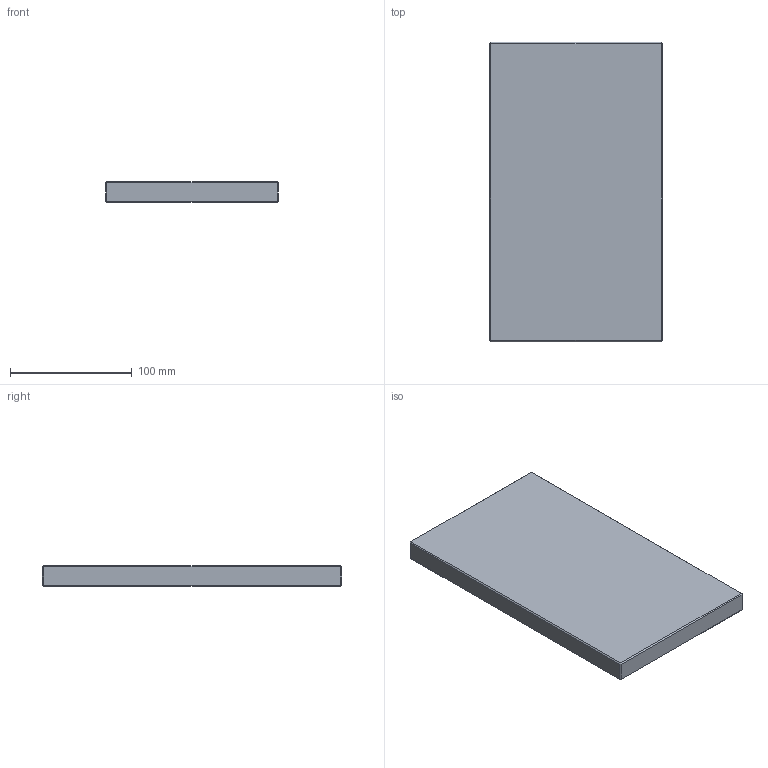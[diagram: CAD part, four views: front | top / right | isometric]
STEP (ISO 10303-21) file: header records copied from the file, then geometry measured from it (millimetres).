
FILE_DESCRIPTION (( 'STEP AP214' ), '1' );
FILE_NAME ('CPE-P-216x246x17.STEP', '2021-03-25T11:36:26', ( '' ), ( '' ), 'SwSTEP 2.0', 'SolidWorks 2018', '' );
FILE_SCHEMA (( 'AUTOMOTIVE_DESIGN' ));
Length unit declared in the file: millimetre
Products named in the file (1): CPE-P-216x246x17
Bounding box: 142 x 246 x 17 mm (x, y, z)
Volume: 593039.3 mm3; surface area: 82104 mm2
Topology: 1 solids, 1 shells, 26 faces, 48 edges, 24 vertices
Faces by surface type: plane 26
Entity records: 634 total; most frequent: DIRECTION 102, CARTESIAN_POINT 99, ORIENTED_EDGE 96, LINE 48, EDGE_CURVE 48, VECTOR 48, AXIS2_PLACEMENT_3D 27, FACE_OUTER_BOUND 26
